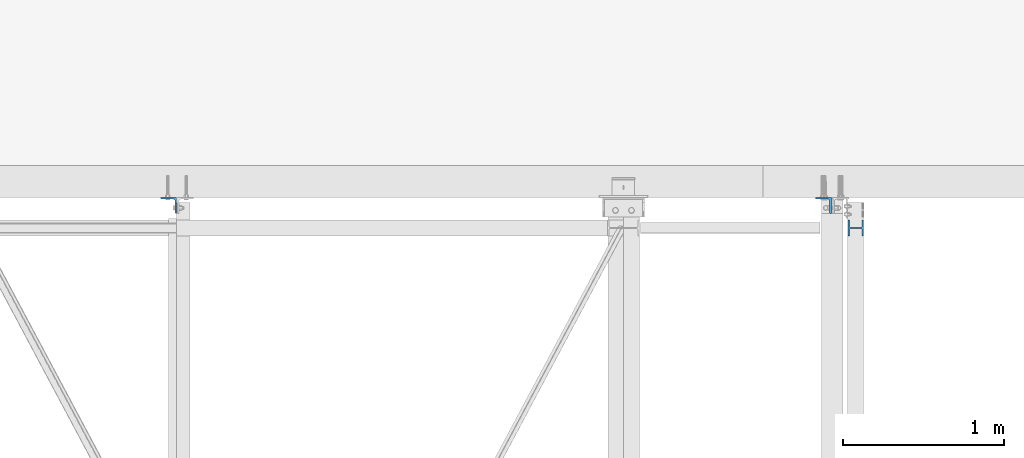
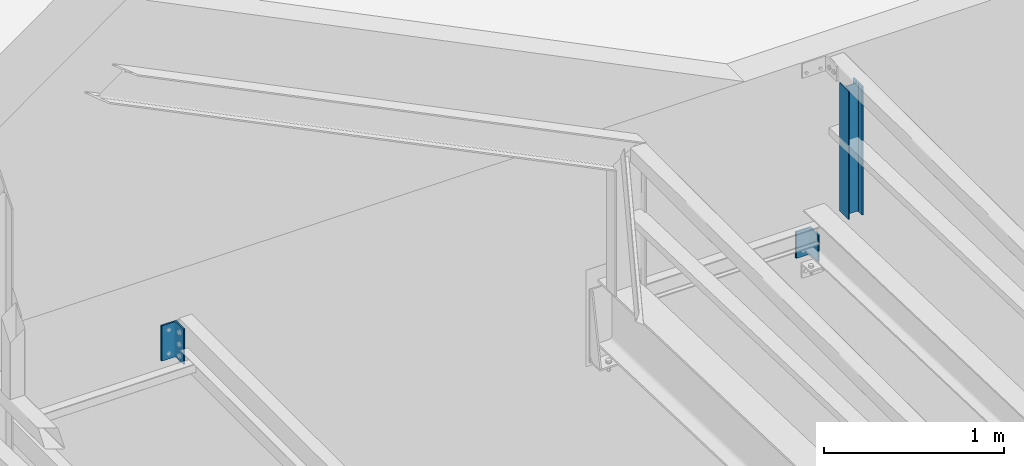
# One storey, part 23 of 123: 3 columns, 3 elements without a shape of their own.
"""IFC2X3 building model written with IfcOpenShell, lengths in millimetres."""

from ifc_helpers import new_model, si_unit, frame, origin_with_axes, origin_2d_with_axis, place, context, subcontext, project, spatial, i_section, l_section, extrude, material, type_object, element, aggregate, save


model = new_model("IFC2X3")

# Units and contexts
model_context = context("Model", 3, precision=1e-05, world=origin_with_axes())
body_context = subcontext(model_context, "Body", "Model", "MODEL_VIEW")
ifc_project = project(units=[si_unit("LENGTHUNIT", "METRE", prefix="MILLI"), si_unit("AREAUNIT", "SQUARE_METRE"), si_unit("VOLUMEUNIT", "CUBIC_METRE"), si_unit("MASSUNIT", "GRAM", prefix="KILO"), si_unit("TIMEUNIT", "SECOND"), si_unit("PLANEANGLEUNIT", "RADIAN"), si_unit("SOLIDANGLEUNIT", "STERADIAN"), si_unit("THERMODYNAMICTEMPERATUREUNIT", "DEGREE_CELSIUS"), si_unit("LUMINOUSINTENSITYUNIT", "LUMEN")], contexts=[model_context])

# Site, building, storey
site_placement = place(None, origin_with_axes())
site = spatial("IfcSite", under=ifc_project, at=site_placement, Name="Undefined", CompositionType="ELEMENT")
building_placement = place(site_placement, origin_with_axes())
building = spatial("IfcBuilding", under=site, at=building_placement, Name="Undefined", CompositionType="ELEMENT")
storey_placement = place(building_placement, origin_with_axes())
storey = spatial("IfcBuildingStorey", under=building, at=storey_placement, Name="Undefined", CompositionType="ELEMENT", Elevation=0.0)

# Assembly, column
assembly_1_placement = place(storey_placement, origin_with_axes())
assembly_1 = element("IfcElementAssembly", 1, at=assembly_1_placement, inside=storey, Name="Steel Assembly", AssemblyPlace="NOTDEFINED", PredefinedType="RIGID_FRAME")
ifc_material_1 = material(Name="STEEL/S235-E24")
column_type_1 = type_object("IfcColumnType", Name="L100*10", PredefinedType="NOTDEFINED")
column_1_placement = place(assembly_1_placement, frame((35496.4917140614, 15339.9999999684, 7970.00437164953), z_axis=(0.0, 0.0, 1.0), x_axis=(-1.0, 0.0, 0.0)))
column_1 = element("IfcColumn", 2, at=column_1_placement, type_object=column_type_1, material=ifc_material_1, Name="ATTACHE", ObjectType="L100*10", context=body_context, shape_type="SweptSolid", body=[
    extrude(l_section(Depth=100.0, Width=100.0, Thickness=10.0, FilletRadius=12.0, EdgeRadius=6.0, at=origin_2d_with_axis()), frame((0.0, 0.0, 239.999999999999), z_axis=(0.0, 0.0, -1.0), x_axis=(0.0, 1.0, 0.0)), (0.0, 0.0, 1.0), 240.0),
])
aggregate(assembly_1, [column_1])

assembly_2_placement = place(storey_placement, origin_with_axes())
assembly_2 = element("IfcElementAssembly", 3, at=assembly_2_placement, inside=storey, Name="Steel Assembly", AssemblyPlace="NOTDEFINED", PredefinedType="RIGID_FRAME")
column_2_placement = place(assembly_2_placement, frame((39575.0000000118, 15339.999993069, 7239.93135684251), z_axis=(0.0, 0.0, 1.0), x_axis=(-1.0, 0.0, 0.0)))
column_2 = element("IfcColumn", 4, at=column_2_placement, type_object=column_type_1, material=ifc_material_1, Name="ATTACHE", ObjectType="L100*10", context=body_context, shape_type="SweptSolid", body=[
    extrude(l_section(Depth=100.0, Width=100.0, Thickness=10.0, FilletRadius=12.0, EdgeRadius=6.0, at=origin_2d_with_axis()), frame((0.0, 0.0, 180.0), z_axis=(0.0, 0.0, -1.0), x_axis=(0.0, 1.0, 0.0)), (0.0, 0.0, 1.0), 180.0),
])
aggregate(assembly_2, [column_2])

assembly_3_placement = place(storey_placement, origin_with_axes())
assembly_3 = element("IfcElementAssembly", 5, at=assembly_3_placement, inside=storey, Name="Steel Assembly", AssemblyPlace="NOTDEFINED", PredefinedType="RIGID_FRAME")
ifc_material_2 = material(Name="STEEL/S275-E28")
column_type_2 = type_object("IfcColumnType", Name="HEA100", PredefinedType="NOTDEFINED")
column_3_placement = place(assembly_3_placement, frame((39777.0, 15199.9999996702, 7572.32075715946), z_axis=(0.0, 0.0, 1.0), x_axis=(1.0, 0.0, 0.0)))
column_3 = element("IfcColumn", 6, at=column_3_placement, type_object=column_type_2, material=ifc_material_2, Name="BAIONNETTE", ObjectType="HEA100", context=body_context, shape_type="SweptSolid", body=[
    extrude(i_section(OverallWidth=100.0, OverallDepth=96.0, WebThickness=5.0, FlangeThickness=8.0, FilletRadius=12.0, at=origin_2d_with_axis()), frame((0.0, 0.0, 872.679242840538), z_axis=(0.0, 0.0, -1.0), x_axis=(0.0, 1.0, 0.0)), (0.0, 0.0, 1.0), 872.7),
])
aggregate(assembly_3, [column_3])

save(model, "model.ifc")
